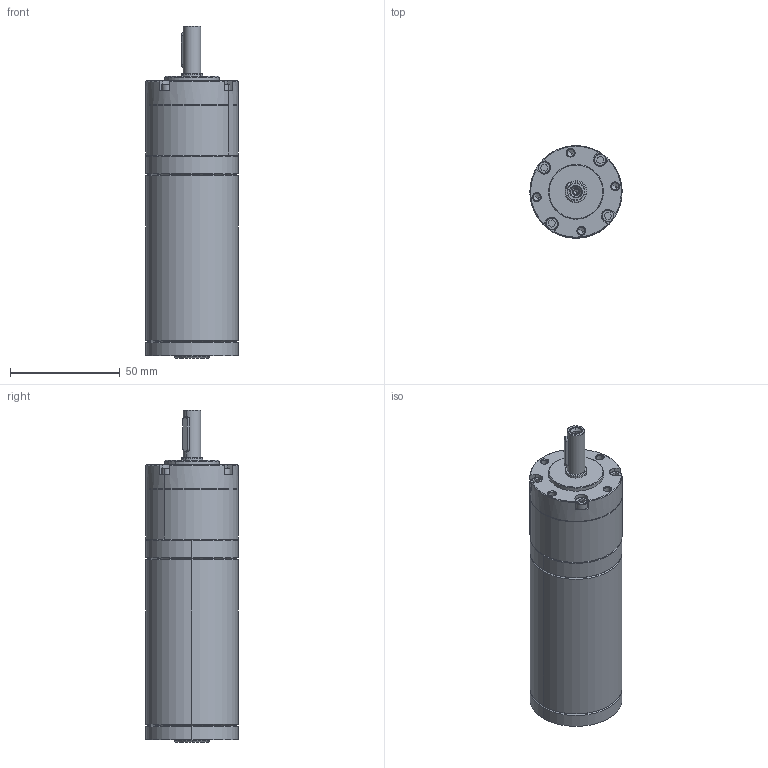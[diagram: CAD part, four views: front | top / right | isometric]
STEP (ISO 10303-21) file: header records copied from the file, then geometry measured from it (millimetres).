
FILE_DESCRIPTION (( 'STEP AP203' ), '1' );
FILE_NAME ('42BLD熬厒掀珨撰淕儂.STEP', '2021-07-16T02:12:40', ( '' ), ( '' ), 'SwSTEP 2.0', 'SolidWorks 2021', '' );
FILE_SCHEMA (( 'CONFIG_CONTROL_DESIGN' ));
Length unit declared in the file: millimetre
Products named in the file (3): 42PN珨撰; 42BLD熬厒掀珨撰淕儂; 42
Assembly tree (2 placements, depth 2):
  42BLD熬厒掀珨撰淕儂
    42
    42PN珨撰
Bounding box: 42 x 42 x 151.3 mm (x, y, z)
Volume: 173741.1 mm3; surface area: 24042.5 mm2
Topology: 2 solids, 2 shells, 163 faces, 390 edges, 237 vertices
Faces by surface type: plane 60, cone 46, cylinder 45, bspline 8, torus 4
Entity records: 5079 total; most frequent: CARTESIAN_POINT 999, DIRECTION 840, ORIENTED_EDGE 760, EDGE_CURVE 380, AXIS2_PLACEMENT_3D 322, VERTEX_POINT 237, LINE 196, VECTOR 196
